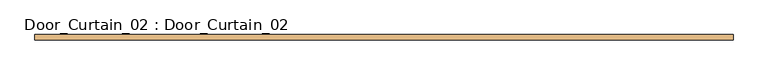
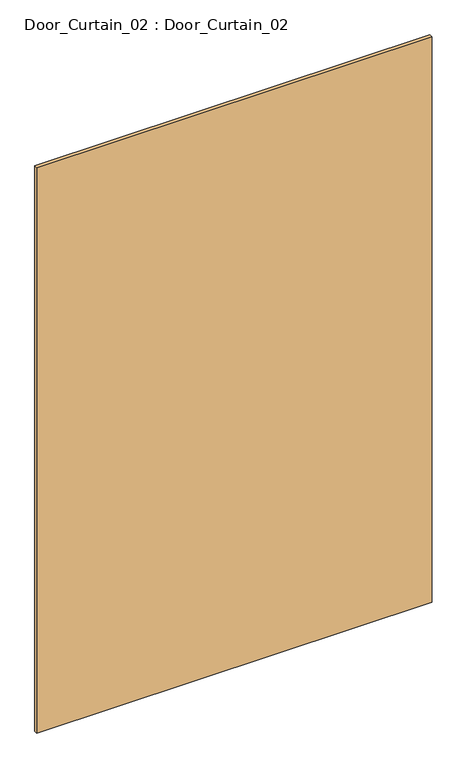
"""IFC4 building model written with IfcOpenShell, lengths in millimetres: door geometry, Door_Curtain_02 : Door_Curtain_02."""

from ifc_helpers import new_model, si_unit, origin, origin_with_axes, place, context, project, spatial, polyline, outline, extrude, source, transform, mapped, element, save


def door_curtain_02_door_curtain_02_88b0817b(model_context):
    return source(origin(), model_context, "Body", "SweptSolid", [
        extrude(outline(polyline([(865.0, 5.0), (865.0, -7.7), (-865.0, -7.7), (-865.0, 5.0), (865.0, 5.0)])), origin_with_axes(), (0.0, 0.0, 1.0), 2615.0),
    ])


if __name__ == "__main__":
    model = new_model("IFC4")
    model_context = context("Model", 3, world=origin())
    ifc_project = project(units=[si_unit("LENGTHUNIT", "METRE", prefix="MILLI")], contexts=[model_context])
    site = spatial("IfcSite", under=ifc_project)
    building = spatial("IfcBuilding", under=site)
    placement = place(None, origin())
    door_curtain_02_door_curtain_02_shape = door_curtain_02_door_curtain_02_88b0817b(model_context)
    element("IfcDoor", 1, ObjectType="Door_Curtain_02 : Door_Curtain_02", at=placement, inside=building, context=model_context, shape_type="MappedRepresentation", body=[
        mapped(door_curtain_02_door_curtain_02_shape, transform((0.0, 0.0, 0.0), x_axis=(1.0, 0.0, 0.0), y_axis=(0.0, 1.0, 0.0), z_axis=(0.0, 0.0, 1.0))),
    ])
    save(model, "model.ifc")
